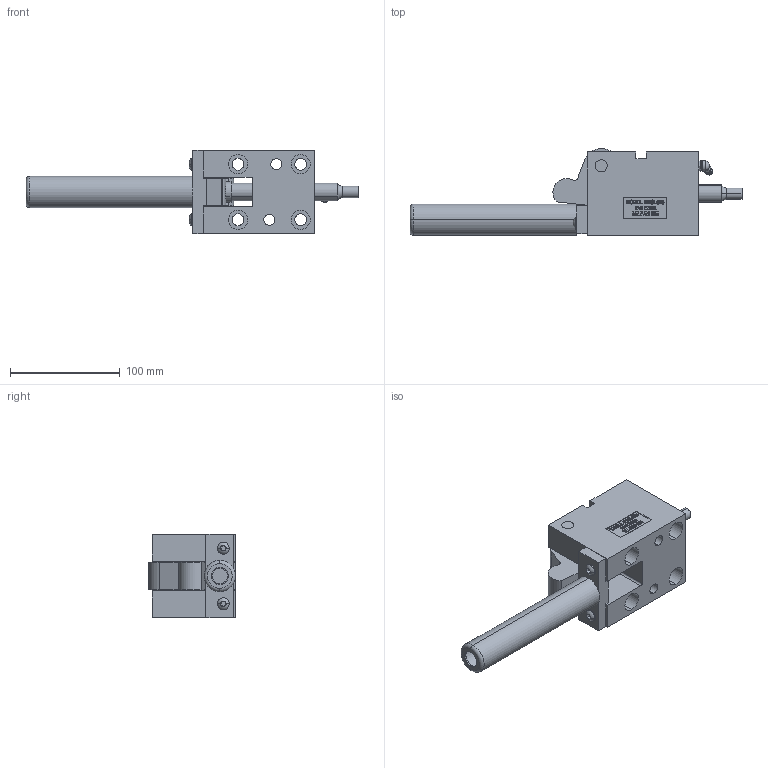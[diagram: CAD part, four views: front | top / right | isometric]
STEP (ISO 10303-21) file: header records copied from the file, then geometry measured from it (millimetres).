
FILE_DESCRIPTION (( 'STEP AP214' ), '1' );
FILE_NAME ('MTOL62545-C.STEP', '2014-01-08T20:11:46', ( 'user' ), ( '' ), 'SwSTEP 2.0', 'SolidWorks 2009', '' );
FILE_SCHEMA (( 'AUTOMOTIVE_DESIGN' ));
Length unit declared in the file: inch
Products named in the file (10): 625-OFFSET TRIGGER; 625-O-STRAP; OL625-CAGE; 1-4 SCREW; GREASE ZERK; MTOL625-BODY; MTOL62545-C; MOL625-PUNCH; M-O-625-POINT; 625 PIVOT PIN
Assembly tree (10 placements, depth 2):
  MTOL62545-C
    M-O-625-POINT
    625-OFFSET TRIGGER
    1-4 SCREW  x2
    OL625-CAGE
    625-O-STRAP
    MTOL625-BODY
    625 PIVOT PIN
    GREASE ZERK
    MOL625-PUNCH
Bounding box: 303.07 x 79.37 x 76.2 mm (x, y, z)
Volume: 529436.8 mm3; surface area: 122695.6 mm2
Topology: 10 solids, 10 shells, 610 faces, 1580 edges, 1040 vertices
Faces by surface type: plane 361, bspline 101, cylinder 96, cone 26, torus 22, sphere 4
Entity records: 24212 total; most frequent: CARTESIAN_POINT 9939, ORIENTED_EDGE 3072, DIRECTION 2486, EDGE_CURVE 1536, LINE 1018, VECTOR 1018, VERTEX_POINT 1014, AXIS2_PLACEMENT_3D 734
